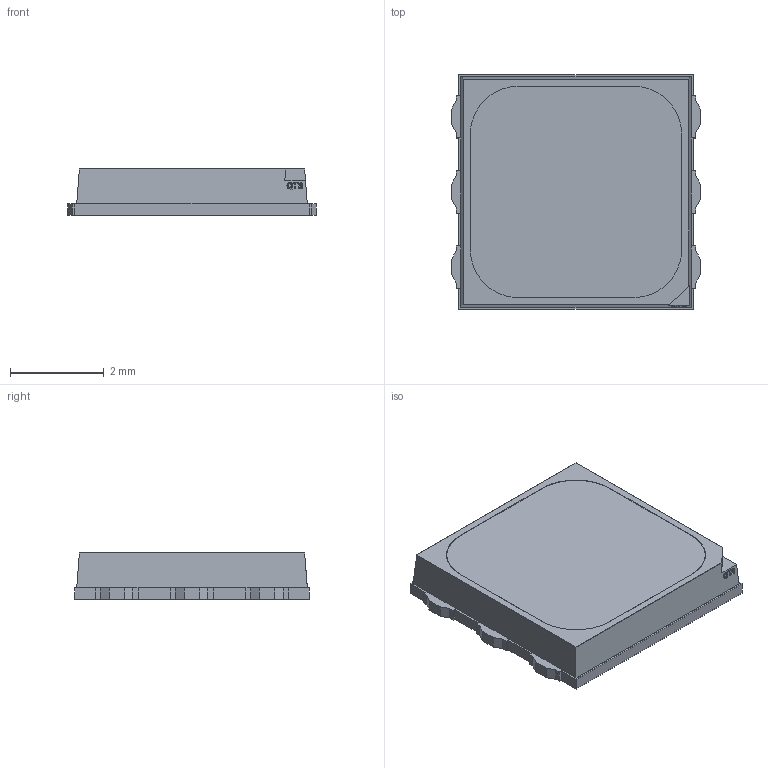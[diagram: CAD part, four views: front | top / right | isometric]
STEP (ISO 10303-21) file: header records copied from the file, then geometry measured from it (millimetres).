
FILE_DESCRIPTION(/* description */ ('STEP AP242','CAx-IF Rec.Pracs.---Representation and Presentation of Product Manufacturing Information (PMI)---4.0---2014-10-13','CAx-IF Rec.Pracs.---3D Tessellated Geometry---0.4---2014-09-14','2;1'),/* implementation_level */ '2;1');
FILE_NAME(/* name */ '6164bdab55d2e6064e66b861',/* time_stamp */ '2021-10-11T22:41:48+00:00',/* author */ (''),/* organization */ (''),/* preprocessor_version */ 'ST-DEVELOPER v18.1',/* originating_system */ ' ',/* authorisation */ ' ');
FILE_SCHEMA (('AP242_MANAGED_MODEL_BASED_3D_ENGINEERING_MIM_LF { 1 0 10303 442 1 1 4 }'));
Length unit declared in the file: metre
Products named in the file (11): QBHP688-RGB3H; Lead Frame, Center; Lead Frame, 3; Lens; Lead Frame, 1; Lead Frame, 5; Body; Lead Frame, 4; Surface Placard, BLK; Lead Frame, 2; Lead Frame, 6
Assembly tree (10 placements, depth 2):
  QBHP688-RGB3H
    Lead Frame, Center
    Lead Frame, 3
    Lens
    Lead Frame, 1
    Lead Frame, 5
    Body
    Lead Frame, 4
    Surface Placard, BLK
    Lead Frame, 2
    Lead Frame, 6
Bounding box: 5.3 x 5 x 1 mm (x, y, z)
Volume: 24 mm3; surface area: 166.1 mm2
Topology: 10 solids, 10 shells, 300 faces, 826 edges, 540 vertices
Faces by surface type: plane 259, bspline 41
Entity records: 10011 total; most frequent: CARTESIAN_POINT 2425, ORIENTED_EDGE 1652, DIRECTION 1256, EDGE_CURVE 826, LINE 716, VECTOR 716, VERTEX_POINT 540, EDGE_LOOP 310
